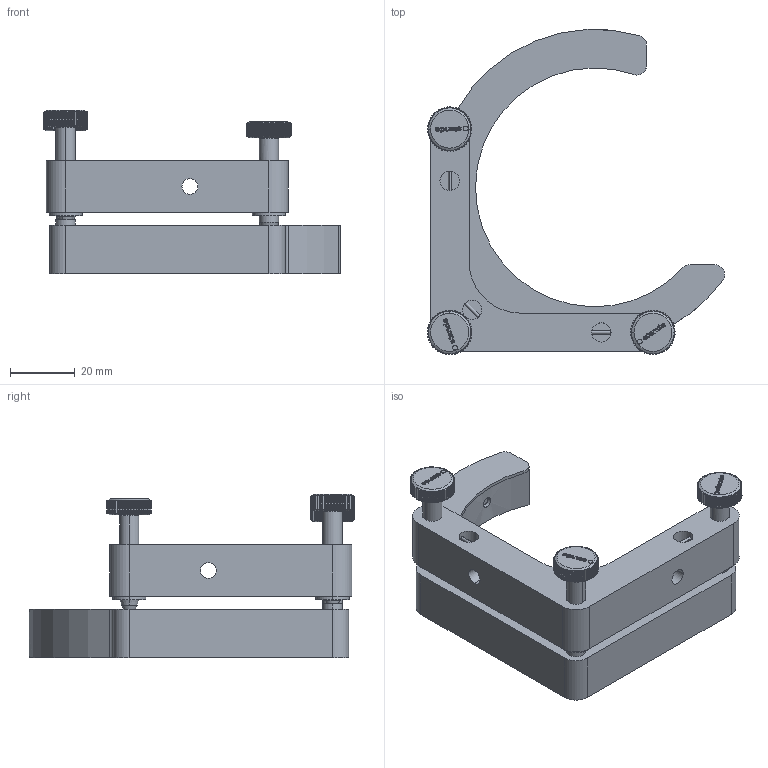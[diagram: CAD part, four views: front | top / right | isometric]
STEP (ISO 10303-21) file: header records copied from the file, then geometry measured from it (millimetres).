
FILE_DESCRIPTION (( 'STEP AP203' ), '1' );
FILE_NAME ('5MBM24-3-3.STEP', '2010-09-20T06:22:44', ( 'Darius' ), ( '' ), 'SwSTEP 2.0', 'SolidWorks 2003240', '' );
FILE_SCHEMA (( 'CONFIG_CONTROL_DESIGN' ));
Length unit declared in the file: millimetre
Products named in the file (1): 5MBM24-3-3
Bounding box: 92.1 x 100.9 x 50.58 mm (x, y, z)
Volume: 68919.4 mm3; surface area: 23840.1 mm2
Topology: 1 solids, 1 shells, 1654 faces, 4719 edges, 3131 vertices
Faces by surface type: cylinder 725, plane 547, bspline 332, cone 50
Entity records: 69014 total; most frequent: CARTESIAN_POINT 30727, ORIENTED_EDGE 9434, DIRECTION 5626, EDGE_CURVE 4717, VERTEX_POINT 3131, B_SPLINE_CURVE_WITH_KNOTS 2244, LINE 1966, VECTOR 1966
